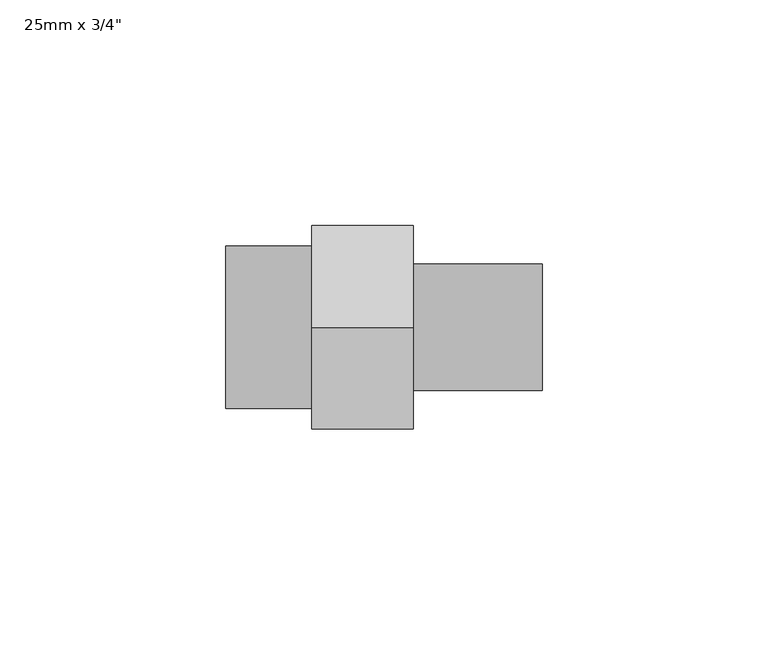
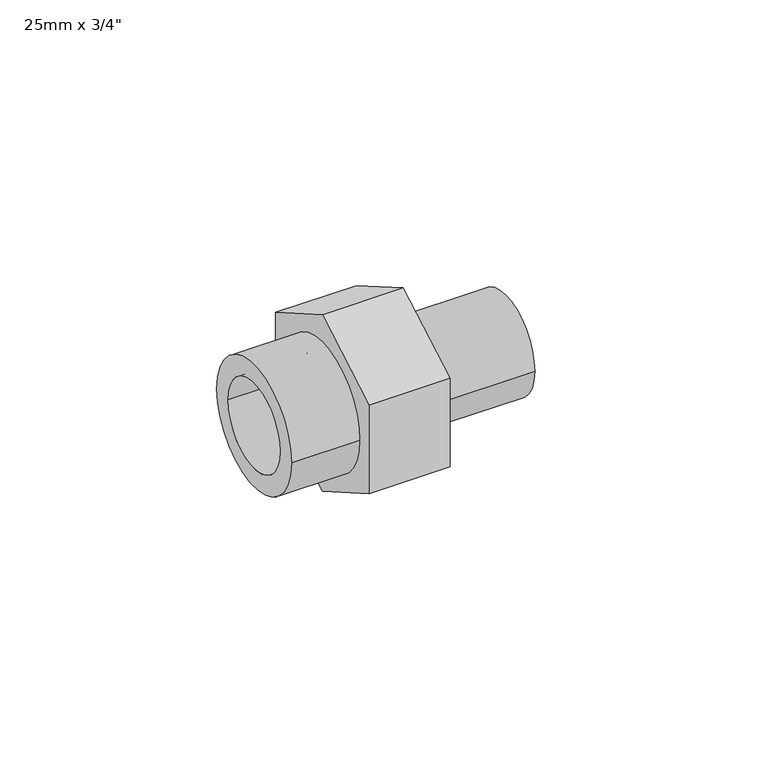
"""IFC4 building model written with IfcOpenShell, lengths in millimetres: pipe fitting geometry."""

from ifc_helpers import new_model, si_unit, point, frame, origin, origin_2d, place, context, project, spatial, polyline, circle_curve, trimmed, segment, composite_curve, outline, extrude, source, transform, mapped, element, save
from ifc_brep_helpers import plane_surface, cylinder_surface, revolved_surface, advanced_brep


def pipe_fitting_59aad342(model_context):
    return source(origin(), model_context, "Body", "SolidModel", [
        extrude(outline(composite_curve([segment(trimmed(circle_curve(origin_2d(), 18.0), [point((-18.0, 0.0))], [point((18.0, 0.0))], False, "CARTESIAN"), True, "CONTINUOUS"), segment(trimmed(circle_curve(origin_2d(), 18.0), [point((18.0, 0.0))], [point((-18.0, 0.0))], False, "CARTESIAN"), True, "CONTINUOUS")], self_intersect=False), holes=[composite_curve([segment(trimmed(circle_curve(origin_2d(), 12.5), [point((-12.5, 0.0))], [point((12.5, 0.0))], True, "CARTESIAN"), True, "CONTINUOUS"), segment(trimmed(circle_curve(origin_2d(), 12.5), [point((12.5, 0.0))], [point((-12.5, 0.0))], True, "CARTESIAN"), True, "CONTINUOUS")], self_intersect=False)]), frame((-9.5, 0.0, 0.0), z_axis=(1.0, 0.0, 0.0), x_axis=(0.0, 1.0, 0.0)), (0.0, 0.0, 1.0), 19.0),
        advanced_brep(
        [(60.5, -14.0, 0.0), (60.5, 14.0, 0.0), (60.5, 10.5, 0.0), (60.5, -10.5, 0.0), (32.0, 14.0, 0.0), (32.0, -14.0, 0.0), (9.5, 0.0, 25.9807621), (9.5, 22.5, 12.9903811), (9.5, 22.5, -12.9903811), (9.5, 0.0, -25.9807621), (9.5, -22.5, -12.9903811), (9.5, -22.5, 12.9903811), (9.5, -10.5, 0.0), (9.5, 10.5, 0.0), (32.0, 0.0, 25.9807621), (32.0, -22.5, 12.9903811), (32.0, -22.5, -12.9903811), (32.0, 0.0, -25.9807621), (32.0, 22.5, -12.9903811), (32.0, 22.5, 12.9903811)],
        [
            (0, 1, circle_curve(frame((60.5, 0.0, 0.0), z_axis=(1.0, 0.0, 0.0), x_axis=(0.0, 1.0, 0.0)), 14.0)),
            (1, 0, circle_curve(frame((60.5, 0.0, 0.0), z_axis=(1.0, 0.0, 0.0), x_axis=(0.0, 1.0, 0.0)), 14.0)),
            (2, 3, circle_curve(frame((60.5, 0.0, 0.0), z_axis=(-1.0, 0.0, 0.0), x_axis=(0.0, -1.0, 0.0)), 10.5)),
            (3, 2, circle_curve(frame((60.5, 0.0, 0.0), z_axis=(-1.0, 0.0, 0.0), x_axis=(0.0, -1.0, 0.0)), 10.5)),
            (1, 4),
            (4, 5, circle_curve(frame((32.0, 0.0, 0.0), z_axis=(1.0, 0.0, 0.0), x_axis=(0.0, 1.0, 0.0)), 14.0)),
            (5, 0),
            (5, 4, circle_curve(frame((32.0, 0.0, 0.0), z_axis=(1.0, 0.0, 0.0), x_axis=(0.0, 1.0, 0.0)), 14.0)),
            (6, 7),
            (7, 8),
            (8, 9),
            (9, 10),
            (10, 11),
            (11, 6),
            (12, 13, circle_curve(frame((9.5, 0.0, 0.0), z_axis=(1.0, 0.0, 0.0), x_axis=(0.0, -1.0, 0.0)), 10.5)),
            (13, 12, circle_curve(frame((9.5, 0.0, 0.0), z_axis=(1.0, 0.0, 0.0), x_axis=(0.0, -1.0, 0.0)), 10.5)),
            (14, 15),
            (15, 16),
            (16, 17),
            (17, 18),
            (18, 19),
            (19, 14),
            (6, 14),
            (19, 7),
            (18, 8),
            (17, 9),
            (16, 10),
            (15, 11),
            (12, 3),
            (2, 13),
        ],
        [
            plane_surface(frame((60.5, 0.0, 0.0), z_axis=(1.0, 0.0, 0.0), x_axis=(0.0, 0.0, 1.0))),
            cylinder_surface(frame((32.0, 0.0, 0.0), z_axis=(-1.0, 0.0, 0.0), x_axis=(0.0, 1.0, 0.0)), 14.0),
            plane_surface(frame((9.5, 0.0, 0.0), z_axis=(-1.0, 0.0, 0.0), x_axis=(0.0, 0.0, 1.0))),
            plane_surface(frame((32.0, 0.0, 0.0), z_axis=(1.0, 0.0, 0.0), x_axis=(0.0, 0.0, 1.0))),
            plane_surface(frame((9.5, 0.0, 25.9807621), z_axis=(0.0, 0.49999999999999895, 0.8660254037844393), x_axis=(1.0, 0.0, 0.0))),
            plane_surface(frame((9.5, 22.5, 12.9903811), z_axis=(0.0, 1.0, 0.0), x_axis=(1.0, 0.0, 0.0))),
            plane_surface(frame((9.5, 22.5, -12.9903811), z_axis=(0.0, 0.49999999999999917, -0.8660254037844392), x_axis=(1.0, 0.0, 0.0))),
            plane_surface(frame((9.5, 0.0, -25.9807621), z_axis=(0.0, -0.49999999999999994, -0.8660254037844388), x_axis=(1.0, 0.0, 0.0))),
            plane_surface(frame((9.5, -22.5, -12.9903811), z_axis=(0.0, -1.0, 0.0), x_axis=(1.0, 0.0, 0.0))),
            plane_surface(frame((9.5, -22.5, 12.9903811), z_axis=(0.0, -0.4999999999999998, 0.8660254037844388), x_axis=(1.0, 0.0, 0.0))),
            revolved_surface(polyline([(9.5, -10.5, 0.0), (60.5, -10.5, 0.0)]), (60.5, 0.0, 0.0), (-1.0, 0.0, 0.0)),
        ],
        [
            (0, [[1, 2], [3, 4]]),
            (1, [[-2, 5, 6, 7]]),
            (1, [[-1, -7, 8, -5]]),
            (2, [[9, 10, 11, 12, 13, 14], [15, 16]]),
            (3, [[17, 18, 19, 20, 21, 22], [-6, -8]]),
            (4, [[-9, 23, -22, 24]]),
            (5, [[-10, -24, -21, 25]]),
            (6, [[-11, -25, -20, 26]]),
            (7, [[-12, -26, -19, 27]]),
            (8, [[-13, -27, -18, 28]]),
            (9, [[-14, -28, -17, -23]]),
            (10, [[29, -3, 30, -15]]),
            (10, [[-29, -16, -30, -4]]),
        ],
    ),
    ])


if __name__ == "__main__":
    model = new_model("IFC4")
    model_context = context("Model", 3, world=origin())
    ifc_project = project(units=[si_unit("LENGTHUNIT", "METRE", prefix="MILLI")], contexts=[model_context])
    site = spatial("IfcSite", under=ifc_project)
    building = spatial("IfcBuilding", under=site)
    placement = place(None, origin())
    pipe_fitting_shape = pipe_fitting_59aad342(model_context)
    element("IfcPipeFitting", 1, ObjectType="PipeFitting_HTA_CPVC_Male3PieceUnions_(CPVC-Brass) : 25mm x 3/4\"", at=placement, inside=building, context=model_context, shape_type="MappedRepresentation", body=[
        mapped(pipe_fitting_shape, transform((0.0, 0.0, 0.0), x_axis=(1.0, 0.0, 0.0), y_axis=(0.0, 1.0, 0.0), z_axis=(0.0, 0.0, 1.0))),
    ])
    save(model, "model.ifc")
